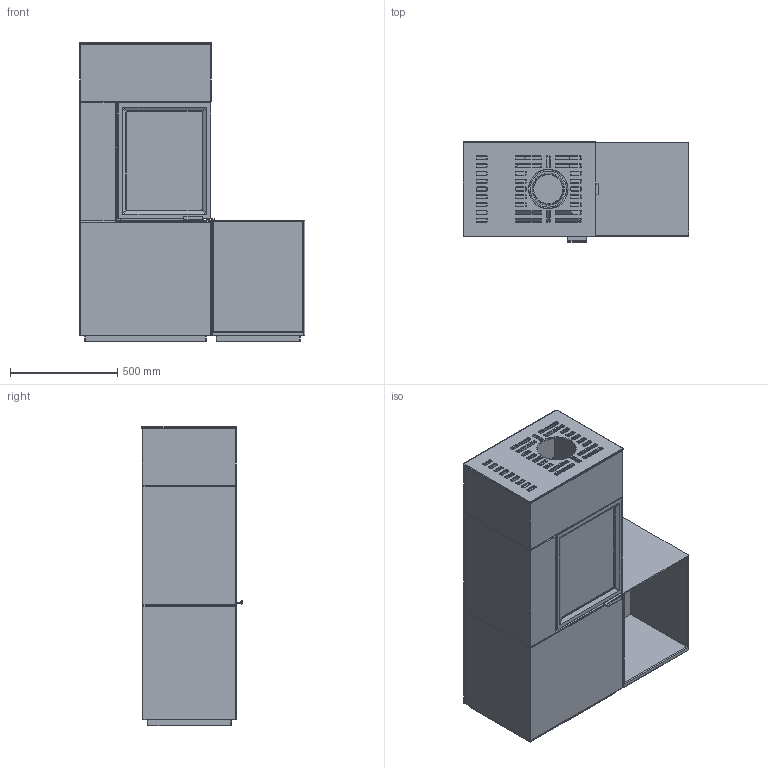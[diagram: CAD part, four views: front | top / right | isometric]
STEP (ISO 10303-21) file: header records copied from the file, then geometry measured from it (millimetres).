
FILE_DESCRIPTION(/* description */ ('Unknown'),/* implementation_level */ '2;1');
FILE_NAME(/* name */ 'C420R Interior model',/* time_stamp */ '2026-08-14T11:36:54+02:00',/* author */ ('Unknown'),/* organization */ ('Unknown'),/* preprocessor_version */ 'ST-DEVELOPER v20',/* originating_system */ 'Solid Edge',/* authorisation */ 'Unknown');
FILE_SCHEMA (('AUTOMOTIVE_DESIGN {1 0 10303 214 3 1 1}'));
Products named in the file (7): DSN1152683; DSN1152293; DSN1152465; DSN1152548; DSN1152717; DSN1152653; DSN1152681
Assembly tree (7 placements, depth 2):
  DSN1152683
    DSN1152293
    DSN1152465
    DSN1152548  x2
    DSN1152717
    DSN1152653
    DSN1152681
Bounding box: 1049.82 x 467.59 x 1392 mm (x, y, z)
Volume: 198116640.6 mm3; surface area: 12511025.1 mm2
Topology: 9 solids, 9 shells, 2862 faces, 7327 edges, 4672 vertices
Faces by surface type: plane 1771, cylinder 532, bspline 379, torus 141, sphere 38, cone 1
Full cylindrical faces by diameter (mm): 8 x2, 25 x2, 30 x4, 32.5 x4, 38 x4, 98 x1, 135.222 x1, 140 x1, 145.23 x1, 168 x1, 173.696 x1, 180.583 x1
Entity records: 115616 total; most frequent: CARTESIAN_POINT 42904, ORIENTED_EDGE 14476, DIRECTION 11007, EDGE_CURVE 7238, VERTEX_POINT 4653, AXIS2_PLACEMENT_3D 3781, LINE 3445, VECTOR 3445
